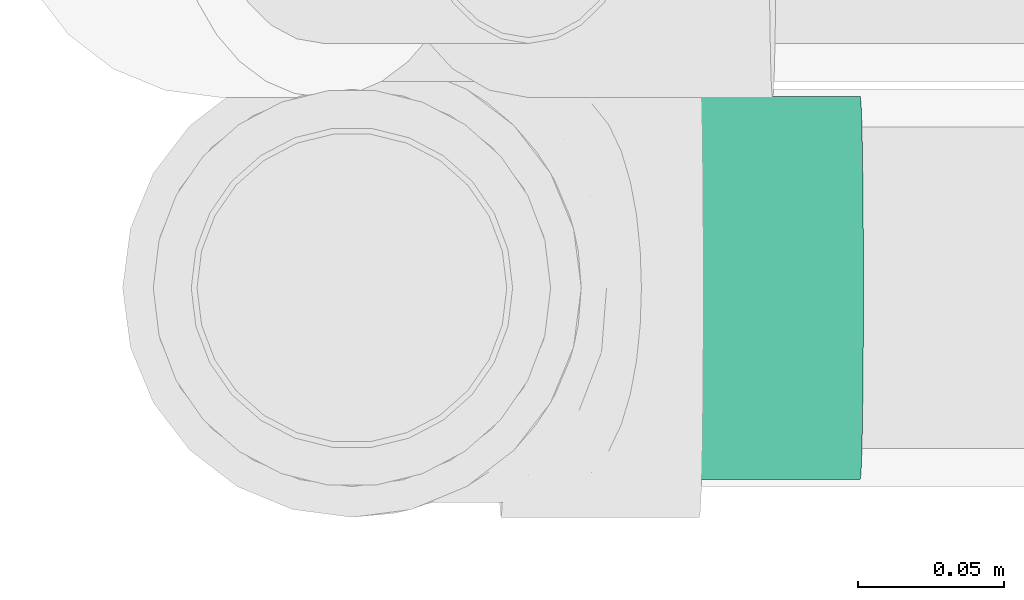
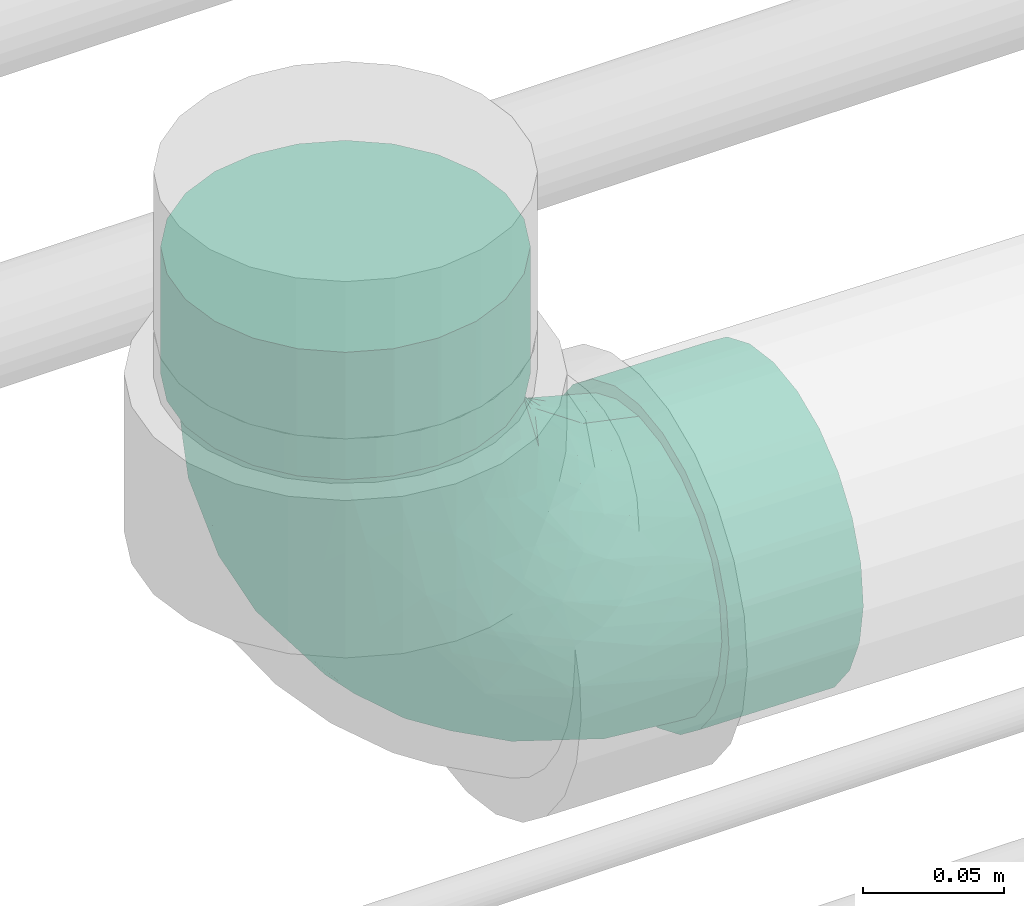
# One storey, part 115 of 156: 1 flow fitting.
"""IFC2X3 building model written with IfcOpenShell, lengths in millimetres."""

from ifc_helpers import new_model, entity, si_unit, converted_unit, derived_unit, direction, frame, origin_with_axes, place, context, subcontext, project, spatial, open_shell, surface_model, source, transform, mapped, type_object, element, save


model = new_model("IFC2X3")

# Units and contexts
model_context = context("Model", 3, precision=0.01, world=frame((0.0, 4.29681676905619e-09, 0.0)), true_north=direction((4.01073788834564e-13, 1.0)))
plan_context = context("Plan", 3, precision=0.01, world=frame((0.0, 4.29681676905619e-09, 0.0)), true_north=direction((4.01073788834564e-13, 1.0)))
body_context = subcontext(model_context, "Body", "Model", "MODEL_VIEW")
ifc_project = project(units=[converted_unit("PLANEANGLEUNIT", "DEGREE", entity("IfcPositiveLengthMeasure", 0.0174532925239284), si_unit("PLANEANGLEUNIT", "RADIAN"), dimensions=[0, 0, 0, 0, 0, 0, 0]), si_unit("AREAUNIT", "SQUARE_METRE"), si_unit("LENGTHUNIT", "METRE", prefix="MILLI"), si_unit("MASSUNIT", "GRAM", prefix="KILO"), si_unit("POWERUNIT", "WATT"), si_unit("PRESSUREUNIT", "PASCAL", prefix="KILO"), si_unit("FORCEUNIT", "NEWTON", prefix="KILO"), si_unit("ELECTRICVOLTAGEUNIT", "VOLT"), si_unit("ELECTRICCURRENTUNIT", "AMPERE"), si_unit("THERMODYNAMICTEMPERATUREUNIT", "DEGREE_CELSIUS"), si_unit("TIMEUNIT", "SECOND"), si_unit("VOLUMEUNIT", "CUBIC_METRE"), derived_unit("LINEARVELOCITYUNIT", [(si_unit("LENGTHUNIT", "METRE"), 1), (si_unit("TIMEUNIT", "SECOND"), -1)]), derived_unit("VOLUMETRICFLOWRATEUNIT", [(si_unit("VOLUMEUNIT", "CUBIC_METRE"), 1), (si_unit("TIMEUNIT", "SECOND"), -1)]), derived_unit("THERMALTRANSMITTANCEUNIT", [(si_unit("POWERUNIT", "WATT"), 1), (si_unit("THERMODYNAMICTEMPERATUREUNIT", "KELVIN"), -1), (si_unit("AREAUNIT", "SQUARE_METRE"), -1)]), derived_unit("SOUNDPRESSUREUNIT", [(si_unit("PRESSUREUNIT", "PASCAL"), 1)])], contexts=[model_context, plan_context])

# Site, building, storey
site_placement = place(None, frame((0.0, -4.29681676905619e-09, 0.0), z_axis=(0.0, 0.0, 1.0), x_axis=(1.0, 0.0, 0.0)))
site = spatial("IfcSite", under=ifc_project, at=site_placement, CompositionType="ELEMENT")
building_placement = place(site_placement, frame((0.0, 4.29681676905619e-09, 0.0), z_axis=(0.0, 0.0, 1.0), x_axis=(1.0, 0.0, 0.0)))
building = spatial("IfcBuilding", under=site, at=building_placement, Name="mc-building", CompositionType="ELEMENT")
storey_placement = place(building_placement, frame((0.0, 0.0, 205200.0), z_axis=(0.0, 0.0, 1.0), x_axis=(1.0, 0.0, 0.0)))
storey = spatial("IfcBuildingStorey", under=building, at=storey_placement, Name="Nivå D + 1,2 m", CompositionType="ELEMENT", Elevation=205200.0)

# Flow fitting
pipe_fitting_type = type_object("IfcPipeFittingType", Name="magi_sewer_bend_001", PredefinedType="BEND")
shared_shape = source(origin_with_axes(), body_context, "Body", "SurfaceModel", [
    surface_model("IfcShellBasedSurfaceModel", [(-174.00014, -16.95265, -63.26814), (-174.00014, -32.75, -56.72466), (-174.00014, -46.3155, -46.3155), (-174.00014, -63.26814, -16.95265), (-174.00014, 56.72466, -32.75), (-174.00014, -56.72466, -32.75), (-174.00014, -65.5, 0.0), (-174.00014, 16.95265, -63.26814), (-174.00014, 0.0, -65.5), (-174.00014, 32.75, -56.72466), (-174.00014, 46.3155, -46.3155), (-174.00014, 63.26814, -16.95265), (-174.00014, -63.26814, 16.95265), (-174.00014, -56.72466, 32.75), (-174.00014, -46.3155, 46.3155), (-174.00014, 63.26814, 16.95265), (-174.00014, -16.95265, 63.26814), (-174.00014, 0.0, 65.5), (-174.00014, -32.75, 56.72466), (-174.00014, 46.3155, 46.3155), (-174.00014, 56.72466, 32.75), (-174.00014, 65.5, 0.0), (-174.00014, 16.95265, 63.26814), (-174.00014, 32.75, 56.72466), (-119.00014, -16.95265, 63.26814), (-119.00014, 16.95265, 63.26814), (-119.00014, 0.0, 65.5), (-119.00014, -46.3155, 46.3155), (-119.00014, -32.75, 56.72466), (-119.00014, -56.72466, 32.75), (-119.00014, -63.26814, 16.95265), (-119.00014, 46.3155, 46.3155), (-119.00014, 32.75, 56.72466), (-119.00014, 63.26814, 16.95265), (-119.00014, 56.72466, 32.75), (-119.00014, 63.26814, -16.95265), (-119.00014, 65.5, 0.0), (-119.00014, -63.26814, -16.95265), (-119.00014, 32.75, -56.72466), (-119.00014, -65.5, 0.0), (-119.00014, -16.95265, -63.26814), (-119.00014, -56.72466, -32.75), (-119.00014, -46.3155, -46.3155), (-119.00014, -32.75, -56.72466), (-119.00014, 0.0, -65.5), (-119.00014, 46.3155, -46.3155), (-119.00014, 56.72466, -32.75), (-119.00014, 16.95265, -63.26814), (-60.35976, 175.0303, 16.95265), (-53.81719, 174.92126, 32.75), (-43.40946, 174.7478, 46.3155), (-14.05069, 174.25848, 63.26814), (-43.40946, 174.7478, -46.3155), (19.84989, 173.69347, -63.26814), (-29.84585, 174.52174, 56.72466), (19.84989, 173.69347, 63.26814), (-60.35976, 175.0303, -16.95265), (-53.81719, 174.92126, -32.75), (-62.59131, 175.06749, 0.0), (-29.84585, 174.52174, -56.72466), (2.8996, 173.97597, -65.5), (-14.05069, 174.25848, -63.26814), (2.8996, 173.97597, 65.5), (35.64505, 173.43022, 56.72466), (49.20866, 173.20416, 46.3155), (66.15896, 172.92166, 16.95265), (59.61639, 173.0307, 32.75), (68.3905, 172.88447, 0.0), (49.20866, 173.20416, -46.3155), (35.64505, 173.43022, -56.72466), (66.15896, 172.92166, -16.95265), (59.61639, 173.0307, -32.75), (65.24242, 117.92929, 16.95265), (65.24242, 117.92929, -16.95265), (67.47397, 117.8921, 0.0), (48.29212, 118.2118, 46.3155), (58.69985, 118.03833, 32.75), (34.72851, 118.43786, 56.72466), (18.93335, 118.70111, 63.26814), (48.29212, 118.2118, -46.3155), (58.69985, 118.03833, -32.75), (18.93335, 118.70111, -63.26814), (34.72851, 118.43786, -56.72466), (-14.96723, 119.26612, -63.26814), (1.98306, 118.98362, -65.5), (-14.96723, 119.26612, 63.26814), (-44.326, 119.75544, -46.3155), (1.98306, 118.98362, 65.5), (-61.2763, 120.03794, 16.95265), (-30.76239, 119.52937, 56.72466), (-44.326, 119.75544, 46.3155), (-54.73373, 119.92889, 32.75), (-30.76239, 119.52937, -56.72466), (-61.2763, 120.03794, -16.95265), (-54.73373, 119.92889, -32.75), (-63.50784, 120.07513, 0.0), (-119.00014, 15.65855, -58.43851), (-119.00014, 0.0, -60.5), (-119.00014, 58.43851, -15.65855), (-119.00014, 30.25, -52.39454), (-119.00014, 52.39454, -30.25), (-119.00014, 42.77996, -42.77996), (-119.00014, -60.5, 0.0), (-119.00014, -30.25, -52.39454), (-119.00014, -42.77996, -42.77996), (-119.00014, -15.65855, -58.43851), (-119.00014, -58.43851, -15.65855), (-119.00014, -52.39454, -30.25), (-119.00014, -58.43851, 15.65855), (-119.00014, 58.43851, 15.65855), (-119.00014, 52.39454, 30.25), (-119.00014, 42.77996, 42.77996), (-119.00014, 30.25, 52.39454), (-119.00014, 15.65855, 58.43851), (-119.00014, -52.39454, 30.25), (-119.00014, -42.77996, 42.77996), (-119.00014, -30.25, 52.39454), (-119.00014, -15.65855, 58.43851), (-119.00014, 0.0, 60.5), (-119.00014, 60.5, 0.0), (1.98306, 118.98362, -60.5), (-13.67332, 119.24456, -58.43851), (-28.26274, 119.48771, -52.39454), (-40.79096, 119.69651, -42.77996), (-50.4042, 119.85674, -30.25), (-56.44734, 119.95745, -15.65855), (44.75708, 118.27072, -42.77996), (17.63944, 118.72268, -58.43851), (32.22886, 118.47951, -52.39454), (54.37032, 118.1105, -30.25), (62.47466, 117.97542, 0.0), (60.41346, 118.00978, -15.65855), (60.41346, 118.00978, 15.65855), (-56.44734, 119.95745, 15.65855), (-28.26274, 119.48771, 52.39454), (-40.79096, 119.69651, 42.77996), (-50.4042, 119.85674, 30.25), (-13.67332, 119.24456, 58.43851), (44.75708, 118.27072, 42.77996), (54.37032, 118.1105, 30.25), (32.22886, 118.47951, 52.39454), (17.63944, 118.72268, 58.43851), (1.98306, 118.98362, 60.5), (-58.50854, 119.9918, 0.0), (-86.96867, -47.00972, 34.00968), (-80.7819, -53.24129, 19.16737), (-72.5116, -54.44534, 0.0), (-89.08726, -56.60415, 0.0), (39.10086, 50.19741, 30.53174), (28.46675, 46.66826, 41.37372), (27.10486, 26.26643, 28.93951), (15.6131, 45.13, 50.36408), (15.04575, 19.2865, 37.76291), (-86.89894, -22.84389, 54.44468), (-45.38391, -14.85887, 50.36408), (-58.84928, -0.69632, 58.67437), (36.10726, 76.60456, 45.09177), (-77.19562, -34.82568, 45.09177), (-43.38966, -41.835, 15.30069), (-50.81815, -45.56532, 0.0), (-29.12469, -36.6853, 0.0), (-60.04164, 103.94237, 10.26064), (-68.71247, 84.86452, 13.0505), (-55.18446, 104.31342, 25.11937), (-103.01513, 36.62698, 49.25858), (-92.74998, 50.41099, 39.65912), (-81.72606, 68.63628, 21.03712), (-72.26232, 71.22128, 29.68156), (-20.02581, 58.58896, 60.3682), (-43.60086, 44.33359, 58.98152), (-35.10512, 25.97135, 60.22491), (-90.76971, -8.01993, 59.47818), (-20.87515, 103.00241, 56.64972), (-6.82454, 88.78959, 60.3476), (-82.9744, 9.26658, 60.39266), (-86.23765, 60.09892, 31.18136), (-99.51292, 59.70606, 21.14965), (-103.45871, 61.66716, 10.01393), (-84.31894, 70.43622, 9.89467), (-26.71447, -26.66338, 28.93951), (-19.53455, -14.72227, 37.76291), (-47.08157, -27.47335, 41.55099), (-76.57813, 77.86506, 0.0), (-96.08086, 65.00931, 0.0), (-91.33639, 23.74801, 57.13701), (-14.77502, 39.18153, 59.39632), (-28.69984, 11.00861, 56.62258), (-4.83421, 31.85984, 55.60311), (-9.89114, 10.05736, 49.62576), (44.13038, 45.82007, 14.96218), (55.64614, 71.59424, 0.0), (54.58007, 79.88344, 19.16737), (-64.95987, 25.67993, 59.41108), (-58.07521, 14.73739, 60.48167), (48.45247, 86.17322, 34.00968), (9.53143, 90.62347, 59.47818), (-50.84203, -38.25892, 30.53174), (58.08087, 88.13162, 0.0), (-48.14306, 76.43599, 47.63822), (-48.04586, 96.6209, 39.32696), (-62.58244, 66.82421, 42.77739), (-24.73556, 80.88675, 57.58424), (-63.39916, 97.15086, 0.0), (-36.69505, 92.46993, 50.11681), (-44.22551, 64.7195, 53.93366), (24.28883, 86.50619, 54.44468), (-63.12434, 40.58831, 55.92424), (-63.07462, 53.90164, 50.27785), (-81.88762, 40.91876, 50.87764), (-33.87244, 62.01368, 57.93391), (1.67691, 58.82951, 58.67437), (6.44015, -6.54838, 17.55786), (-10.4294, -22.54506, 0.0), (8.2659, -8.40481, 0.0), (23.51883, 13.41447, 18.60777), (13.30477, 6.6046, 27.47303), (-13.80454, -23.29202, 18.60777), (22.71573, 10.05225, 0.0), (-0.56725, 0.57678, 36.95386), (-3.90739, -10.13033, 28.29631), (37.16555, 28.50931, 0.0), (-60.70932, 85.30803, 29.80333), (46.40584, 50.05178, 0.0), (-99.55393, 36.96913, -49.52575), (-47.13616, -27.6851, -41.37372), (-45.38391, -14.85887, -50.36407), (-19.53455, -14.72227, -37.76291), (-88.66354, 8.30321, -60.3476), (24.28883, 86.50619, -54.44468), (15.6131, 45.12999, -50.36407), (1.6769, 58.8295, -58.67437), (-102.64024, 22.58872, -56.64972), (-68.71247, 84.86451, -13.0505), (-98.93529, 61.77779, -15.53658), (-60.04164, 103.94237, -10.26064), (-84.31894, 70.43622, -9.89467), (-50.84204, -38.25892, -30.53174), (-26.71447, -26.66338, -28.93951), (-56.98453, 48.01392, -54.99058), (-61.32494, 34.41782, -58.07217), (-76.37995, 43.81612, -50.8173), (-77.19562, -34.82568, -45.09177), (-58.24711, 20.99937, -60.3682), (-43.60086, 44.33359, -58.98152), (-25.38274, 35.53304, -60.22491), (-92.31551, 50.53005, -39.70651), (-80.7819, -53.24129, -19.16737), (-57.91698, 100.1219, -21.77038), (-59.85683, 85.88116, -30.55746), (-39.53074, 63.79195, -55.92424), (-22.22265, 91.71946, -57.13701), (-24.59385, 65.37879, -59.41108), (-86.96867, -47.00972, -34.00968), (-13.76756, 58.31273, -60.48167), (-86.89894, -22.84389, -54.44468), (-62.11182, 55.94126, -49.64549), (-39.54847, 82.55812, -50.87764), (-46.54912, -43.36069, -14.96218), (36.10726, 76.60456, -45.09177), (28.25413, 46.6172, -41.55099), (-90.76971, -8.01993, -59.47818), (-96.22555, 57.40199, -28.34878), (-76.12545, 65.40938, -32.8631), (48.45247, 86.17321, -34.00968), (39.10086, 50.19741, -30.53174), (-81.72606, 68.63628, -21.03712), (-7.88258, 83.1173, -60.39266), (27.10486, 26.26643, -28.93951), (15.04576, 19.2865, -37.76291), (-34.90521, 103.61119, -49.25858), (54.58007, 79.88344, -19.16737), (9.53143, 90.62347, -59.47818), (-51.30243, 78.81377, -44.27222), (-47.73366, 97.94443, -39.18321), (-38.92988, 15.4259, -59.39632), (-10.52882, 28.8793, -56.62258), (-31.77486, 5.36446, -55.60311), (42.55225, 42.68648, -15.30069), (-3.9074, -10.13034, -28.29631), (-13.80454, -23.29203, -18.60777), (-80.46332, 26.08004, -57.58424), (-65.77203, 63.68733, -42.77739), (-58.84928, -0.69632, -58.67437), (-9.89114, 10.05736, -49.62575), (6.44015, -6.54838, -17.55786), (13.30476, 6.6046, -27.47303), (-0.56725, 0.57678, -36.95385), (23.51883, 13.41448, -18.60777)], [open_shell([[[0, 1, 2]], [[0, 2, 3]], [[0, 3, 4]], [[3, 2, 5]], [[4, 3, 6]], [[0, 7, 8]], [[0, 9, 7]], [[10, 9, 0]], [[0, 4, 10]], [[6, 11, 4]], [[6, 12, 11]], [[12, 13, 14]], [[11, 14, 15]], [[16, 17, 14]], [[16, 14, 18]], [[15, 14, 17]], [[15, 19, 20]], [[21, 11, 15]], [[19, 22, 23]], [[22, 19, 15]], [[17, 22, 15]], [[11, 12, 14]], [[24, 25, 26]], [[27, 24, 28]], [[27, 29, 30]], [[24, 27, 25]], [[30, 25, 27]], [[25, 31, 32]], [[31, 25, 33]], [[31, 33, 34]], [[25, 30, 33]], [[33, 35, 36]], [[33, 30, 35]], [[37, 38, 39]], [[40, 37, 41]], [[42, 43, 40]], [[42, 40, 41]], [[44, 37, 40]], [[39, 45, 46]], [[46, 35, 39]], [[38, 44, 47]], [[38, 45, 39]], [[38, 37, 44]], [[39, 35, 30]], [[35, 11, 36]], [[46, 4, 35]], [[47, 44, 7]], [[45, 10, 46]], [[35, 4, 11]], [[11, 21, 36]], [[9, 38, 7]], [[9, 10, 45]], [[38, 47, 7]], [[10, 4, 46]], [[45, 38, 9]], [[44, 8, 7]], [[0, 40, 43]], [[42, 1, 43]], [[5, 41, 37]], [[42, 41, 2]], [[3, 37, 39]], [[40, 0, 8]], [[43, 1, 0]], [[42, 2, 1]], [[41, 5, 2]], [[3, 5, 37]], [[39, 6, 3]], [[40, 8, 44]], [[30, 12, 39]], [[29, 13, 30]], [[28, 18, 27]], [[27, 14, 29]], [[30, 13, 12]], [[12, 6, 39]], [[17, 16, 24]], [[16, 18, 28]], [[14, 27, 18]], [[14, 13, 29]], [[24, 16, 28]], [[24, 26, 17]], [[22, 25, 32]], [[31, 23, 32]], [[20, 34, 33]], [[31, 34, 19]], [[15, 33, 36]], [[25, 22, 17]], [[32, 23, 22]], [[31, 19, 23]], [[34, 20, 19]], [[15, 20, 33]], [[36, 21, 15]], [[25, 17, 26]], [[48, 49, 50]], [[48, 50, 51]], [[52, 48, 53]], [[51, 50, 54]], [[51, 55, 48]], [[56, 52, 57]], [[56, 58, 48]], [[59, 60, 61]], [[56, 48, 52]], [[59, 52, 53]], [[55, 51, 62]], [[55, 63, 64]], [[55, 64, 65]], [[55, 65, 53]], [[65, 64, 66]], [[53, 65, 67]], [[53, 68, 69]], [[60, 59, 53]], [[68, 70, 71]], [[70, 68, 53]], [[67, 70, 53]], [[53, 48, 55]], [[72, 73, 74]], [[75, 72, 76]], [[75, 77, 78]], [[75, 78, 72]], [[73, 72, 78]], [[73, 79, 80]], [[79, 73, 81]], [[79, 81, 82]], [[73, 78, 81]], [[81, 83, 84]], [[81, 78, 83]], [[85, 86, 87]], [[88, 85, 89]], [[90, 91, 88]], [[90, 88, 89]], [[86, 85, 88]], [[83, 86, 92]], [[83, 87, 86]], [[86, 93, 94]], [[86, 88, 93]], [[95, 93, 88]], [[87, 83, 78]], [[83, 61, 84]], [[92, 59, 83]], [[93, 95, 56]], [[86, 52, 92]], [[83, 59, 61]], [[61, 60, 84]], [[57, 94, 56]], [[57, 52, 86]], [[94, 93, 56]], [[52, 59, 92]], [[86, 94, 57]], [[95, 58, 56]], [[48, 88, 91]], [[90, 49, 91]], [[54, 89, 85]], [[90, 89, 50]], [[51, 85, 87]], [[88, 48, 58]], [[91, 49, 48]], [[90, 50, 49]], [[89, 54, 50]], [[51, 54, 85]], [[87, 62, 51]], [[88, 58, 95]], [[78, 55, 87]], [[77, 63, 78]], [[76, 66, 75]], [[75, 64, 77]], [[78, 63, 55]], [[55, 62, 87]], [[67, 65, 72]], [[65, 66, 76]], [[64, 75, 66]], [[64, 63, 77]], [[72, 65, 76]], [[72, 74, 67]], [[70, 73, 80]], [[79, 71, 80]], [[69, 82, 81]], [[79, 82, 68]], [[53, 81, 84]], [[73, 70, 67]], [[80, 71, 70]], [[79, 68, 71]], [[82, 69, 68]], [[53, 69, 81]], [[84, 60, 53]], [[73, 67, 74]], [[96, 97, 98]], [[99, 96, 98]], [[98, 100, 101]], [[99, 98, 101]], [[102, 98, 97]], [[103, 104, 105]], [[104, 97, 105]], [[106, 102, 107]], [[104, 107, 102]], [[104, 102, 97]], [[102, 108, 98]], [[109, 98, 108]], [[110, 109, 111]], [[112, 109, 108]], [[111, 109, 112]], [[113, 112, 108]], [[114, 115, 108]], [[116, 108, 115]], [[117, 118, 116]], [[108, 116, 118]], [[118, 113, 108]], [[119, 98, 109]], [[120, 121, 122]], [[120, 122, 123]], [[123, 124, 125]], [[123, 125, 120]], [[120, 125, 126]], [[127, 126, 128]], [[127, 120, 126]], [[129, 130, 131]], [[130, 129, 126]], [[126, 132, 130]], [[126, 125, 133]], [[126, 133, 134]], [[135, 133, 136]], [[126, 134, 132]], [[134, 133, 135]], [[132, 134, 137]], [[132, 138, 139]], [[138, 132, 140]], [[132, 141, 140]], [[141, 132, 142]], [[132, 137, 142]], [[133, 125, 143]], [[144, 114, 145]], [[146, 145, 147]], [[148, 149, 150]], [[145, 114, 108]], [[108, 147, 145]], [[149, 151, 152]], [[115, 114, 144]], [[153, 154, 155]], [[156, 138, 140]], [[157, 116, 115]], [[157, 153, 116]], [[158, 159, 160]], [[161, 162, 163]], [[111, 164, 165]], [[162, 166, 167]], [[110, 111, 165]], [[168, 169, 170]], [[112, 164, 111]], [[117, 171, 118]], [[137, 172, 173]], [[118, 174, 113]], [[175, 176, 110]], [[149, 148, 156]], [[119, 109, 177]], [[166, 178, 177]], [[179, 180, 181]], [[182, 183, 178]], [[184, 113, 174]], [[113, 184, 112]], [[185, 186, 187]], [[188, 154, 180]], [[166, 177, 176]], [[189, 190, 191]], [[192, 193, 170]], [[148, 191, 194]], [[184, 164, 112]], [[189, 191, 148]], [[141, 142, 195]], [[144, 196, 157]], [[191, 132, 139]], [[133, 163, 136]], [[194, 191, 139]], [[145, 146, 159]], [[191, 197, 132]], [[139, 138, 194]], [[198, 199, 200]], [[201, 168, 173]], [[178, 162, 182]], [[118, 171, 174]], [[202, 161, 143]], [[134, 135, 203]], [[182, 162, 202]], [[175, 167, 166]], [[203, 201, 172]], [[204, 201, 203]], [[136, 163, 199]], [[205, 140, 141]], [[116, 153, 117]], [[156, 205, 151]], [[134, 172, 137]], [[142, 137, 173]], [[154, 157, 181]], [[161, 202, 162]], [[156, 140, 205]], [[206, 184, 192]], [[198, 207, 204]], [[207, 165, 208]], [[176, 175, 166]], [[199, 135, 136]], [[201, 204, 209]], [[201, 209, 168]], [[195, 173, 210]], [[154, 153, 157]], [[171, 153, 155]], [[154, 181, 180]], [[154, 188, 186]], [[195, 205, 141]], [[210, 187, 151]], [[210, 151, 205]], [[151, 188, 152]], [[211, 212, 213]], [[211, 214, 215]], [[216, 158, 160]], [[211, 217, 214]], [[180, 218, 188]], [[219, 180, 179]], [[150, 215, 214]], [[189, 214, 220]], [[196, 144, 145]], [[157, 115, 144]], [[138, 156, 194]], [[148, 194, 156]], [[192, 184, 174]], [[164, 184, 208]], [[177, 178, 183]], [[162, 178, 166]], [[119, 177, 183]], [[177, 109, 176]], [[109, 110, 176]], [[175, 110, 165]], [[165, 200, 175]], [[167, 200, 221]], [[203, 198, 204]], [[206, 207, 208]], [[192, 170, 169]], [[210, 173, 168]], [[186, 170, 155]], [[168, 170, 185]], [[173, 195, 142]], [[205, 195, 210]], [[153, 171, 117]], [[174, 171, 155]], [[200, 199, 221]], [[203, 135, 199]], [[192, 174, 193]], [[206, 192, 169]], [[204, 206, 169]], [[184, 206, 208]], [[204, 207, 206]], [[165, 207, 200]], [[174, 155, 193]], [[155, 170, 193]], [[200, 167, 175]], [[162, 167, 221]], [[154, 186, 155]], [[187, 186, 188]], [[151, 187, 188]], [[185, 187, 210]], [[168, 185, 210]], [[186, 185, 170]], [[163, 162, 221]], [[143, 161, 133]], [[108, 102, 147]], [[197, 191, 190]], [[197, 130, 132]], [[165, 164, 208]], [[203, 172, 134]], [[173, 172, 201]], [[161, 163, 133]], [[199, 163, 221]], [[216, 179, 158]], [[159, 158, 145]], [[145, 158, 196]], [[189, 148, 150]], [[189, 222, 190]], [[157, 196, 181]], [[179, 181, 196]], [[158, 179, 196]], [[219, 179, 216]], [[219, 216, 211]], [[218, 180, 219]], [[211, 216, 212]], [[204, 169, 209]], [[215, 218, 219]], [[188, 218, 152]], [[216, 160, 212]], [[151, 149, 156]], [[150, 149, 152]], [[152, 218, 215]], [[189, 150, 214]], [[152, 215, 150]], [[211, 215, 219]], [[217, 211, 213]], [[217, 220, 214]], [[168, 209, 169]], [[199, 198, 203]], [[207, 198, 200]], [[189, 220, 222]], [[99, 101, 223]], [[224, 225, 226]], [[97, 96, 227]], [[228, 229, 230]], [[96, 99, 231]], [[182, 202, 232]], [[183, 233, 119]], [[202, 234, 232]], [[235, 233, 183]], [[236, 224, 237]], [[238, 239, 240]], [[241, 224, 236]], [[242, 243, 244]], [[100, 245, 101]], [[107, 246, 106]], [[247, 124, 248]], [[246, 147, 106]], [[249, 250, 251]], [[246, 107, 252]], [[251, 253, 244]], [[241, 103, 254]], [[249, 255, 256]], [[245, 240, 223]], [[131, 130, 197]], [[257, 146, 246]], [[229, 258, 259]], [[260, 105, 97]], [[236, 246, 252]], [[241, 254, 225]], [[245, 261, 262]], [[182, 235, 183]], [[263, 264, 258]], [[265, 235, 232]], [[250, 121, 266]], [[125, 234, 143]], [[267, 268, 259]], [[254, 103, 105]], [[265, 232, 248]], [[122, 269, 123]], [[263, 129, 270]], [[122, 121, 250]], [[120, 271, 266]], [[241, 104, 103]], [[272, 248, 273]], [[124, 273, 248]], [[120, 127, 271]], [[126, 258, 128]], [[96, 231, 227]], [[274, 275, 276]], [[222, 220, 277]], [[237, 278, 279]], [[228, 128, 258]], [[270, 129, 131]], [[280, 242, 227]], [[270, 197, 190]], [[107, 104, 252]], [[124, 123, 273]], [[197, 270, 131]], [[128, 228, 127]], [[129, 263, 126]], [[120, 266, 121]], [[233, 261, 98]], [[257, 246, 236]], [[281, 262, 248]], [[270, 190, 222]], [[232, 234, 247]], [[261, 233, 265]], [[240, 245, 281]], [[280, 239, 242]], [[260, 227, 282]], [[260, 254, 105]], [[282, 276, 225]], [[282, 225, 254]], [[225, 283, 226]], [[229, 228, 258]], [[271, 228, 230]], [[229, 259, 268]], [[229, 283, 275]], [[268, 283, 229]], [[284, 212, 279]], [[285, 268, 267]], [[257, 279, 160]], [[284, 217, 213]], [[283, 268, 286]], [[287, 277, 220]], [[278, 284, 279]], [[104, 241, 252]], [[236, 252, 241]], [[264, 263, 270]], [[258, 126, 263]], [[251, 250, 266]], [[269, 250, 256]], [[249, 238, 255]], [[280, 231, 223]], [[232, 235, 182]], [[233, 235, 265]], [[262, 261, 265]], [[233, 98, 119]], [[245, 100, 261]], [[98, 261, 100]], [[251, 244, 243]], [[282, 227, 242]], [[275, 244, 230]], [[242, 244, 274]], [[227, 260, 97]], [[254, 260, 282]], [[228, 271, 127]], [[266, 271, 230]], [[248, 262, 265]], [[245, 262, 281]], [[269, 273, 123]], [[272, 273, 256]], [[251, 266, 253]], [[249, 251, 243]], [[238, 249, 243]], [[250, 249, 256]], [[239, 238, 243]], [[255, 238, 240]], [[266, 230, 253]], [[230, 244, 253]], [[242, 239, 243]], [[240, 239, 280]], [[240, 281, 255]], [[255, 281, 272]], [[245, 223, 101]], [[280, 223, 240]], [[229, 275, 230]], [[276, 275, 283]], [[225, 276, 283]], [[274, 276, 282]], [[242, 274, 282]], [[275, 274, 244]], [[143, 234, 202]], [[247, 234, 125]], [[124, 247, 125]], [[232, 247, 248]], [[147, 246, 146]], [[147, 102, 106]], [[250, 269, 122]], [[273, 269, 256]], [[223, 231, 99]], [[227, 231, 280]], [[257, 236, 237]], [[257, 159, 146]], [[287, 267, 277]], [[222, 277, 270]], [[270, 277, 264]], [[225, 224, 241]], [[237, 224, 226]], [[278, 237, 226]], [[257, 237, 279]], [[286, 278, 226]], [[278, 285, 284]], [[284, 287, 217]], [[258, 264, 259]], [[283, 286, 226]], [[285, 286, 268]], [[212, 284, 213]], [[212, 160, 279]], [[267, 259, 264]], [[277, 267, 264]], [[285, 267, 287]], [[284, 285, 287]], [[285, 278, 286]], [[287, 220, 217]], [[255, 272, 256]], [[248, 272, 281]], [[257, 160, 159]]])]),
])
flow_fitting_placement = place(storey_placement, frame((324461.67326, 462586.08797, 5152.15883999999), z_axis=(0.0, 1.0, 0.0), x_axis=(-0.999861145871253, 0.0, 0.0166640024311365)))
element("IfcFlowFitting", 1, at=flow_fitting_placement, inside=storey, type_object=pipe_fitting_type, Name="magi_sewer_bend_001", context=body_context, shape_type="MappedRepresentation", body=[
    mapped(shared_shape, transform((0.0, 0.0, 0.0), scale=1.0)),
])

save(model, "model.ifc")
